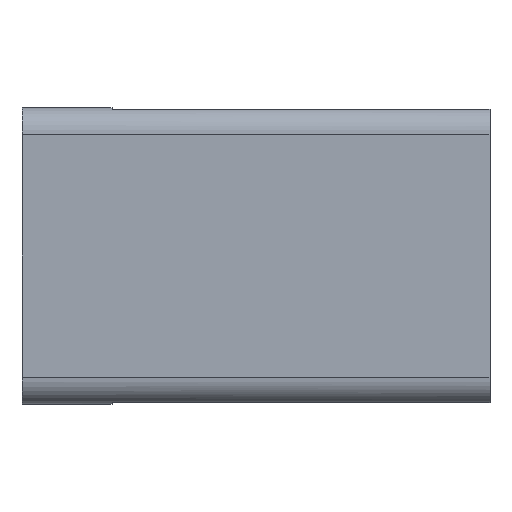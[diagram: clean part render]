
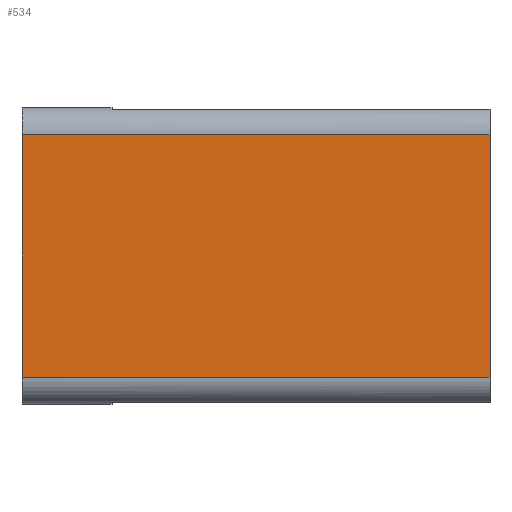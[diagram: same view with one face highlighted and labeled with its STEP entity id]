
A CAD part, left-side view. The second image highlights one B-rep face of the part: STEP entity #534.
In plain terms, the highlighted planar face has unit normal (-1, 0, 0).
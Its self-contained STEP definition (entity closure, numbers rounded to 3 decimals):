
#46=PLANE('',#572);
#63=FACE_OUTER_BOUND('',#93,.T.);
#93=EDGE_LOOP('',(#384,#385,#386,#387));
#150=LINE('',#767,#191);
#156=LINE('',#783,#197);
#159=LINE('',#791,#200);
#160=LINE('',#792,#201);
#191=VECTOR('',#626,10.);
#197=VECTOR('',#640,10.);
#200=VECTOR('',#647,10.);
#201=VECTOR('',#648,10.);
#234=VERTEX_POINT('',#764);
#235=VERTEX_POINT('',#766);
#241=VERTEX_POINT('',#781);
#244=VERTEX_POINT('',#790);
#289=EDGE_CURVE('',#235,#234,#150,.T.);
#297=EDGE_CURVE('',#241,#234,#156,.T.);
#301=EDGE_CURVE('',#244,#241,#159,.T.);
#302=EDGE_CURVE('',#235,#244,#160,.T.);
#384=ORIENTED_EDGE('',*,*,#297,.F.);
#385=ORIENTED_EDGE('',*,*,#301,.F.);
#386=ORIENTED_EDGE('',*,*,#302,.F.);
#387=ORIENTED_EDGE('',*,*,#289,.T.);
#534=ADVANCED_FACE('',(#63),#46,.T.);
#572=AXIS2_PLACEMENT_3D('',#789,#645,#646);
#626=DIRECTION('',(0.,0.,1.));
#640=DIRECTION('',(0.,-1.,0.));
#645=DIRECTION('center_axis',(-1.,0.,0.));
#646=DIRECTION('ref_axis',(0.,0.,1.));
#647=DIRECTION('',(0.,0.,1.));
#648=DIRECTION('',(0.,1.,0.));
#764=CARTESIAN_POINT('',(0.,0.,-1.5));
#766=CARTESIAN_POINT('',(0.,0.,-15.));
#767=CARTESIAN_POINT('',(0.,0.,-16.5));
#781=CARTESIAN_POINT('',(0.,26.,-1.5));
#783=CARTESIAN_POINT('',(0.,0.,-1.5));
#789=CARTESIAN_POINT('Origin',(0.,0.,-16.5));
#790=CARTESIAN_POINT('',(0.,26.,-15.));
#791=CARTESIAN_POINT('',(0.,26.,-16.5));
#792=CARTESIAN_POINT('',(0.,0.,-15.));
